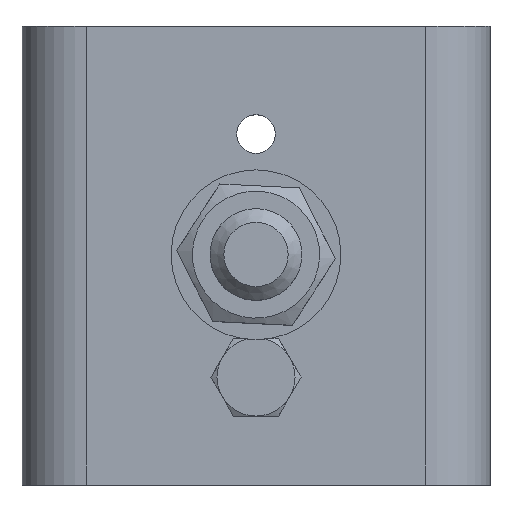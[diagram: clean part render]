
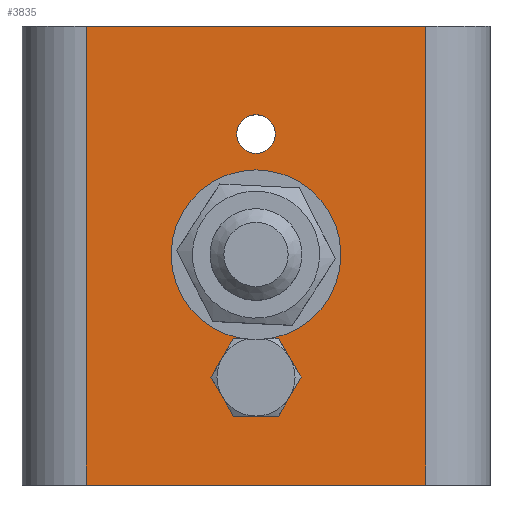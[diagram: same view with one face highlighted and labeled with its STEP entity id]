
A CAD part, top view. The second image highlights one B-rep face of the part: STEP entity #3835.
In plain terms, the highlighted planar face has unit normal (0, 0, 1).
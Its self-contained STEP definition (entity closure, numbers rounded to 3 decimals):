
#89=LINE('',#5876,#403);
#91=LINE('',#5880,#405);
#92=LINE('',#5882,#406);
#93=LINE('',#5883,#407);
#403=VECTOR('',#4606,100.);
#405=VECTOR('',#4610,74.);
#406=VECTOR('',#4611,100.);
#407=VECTOR('',#4612,74.);
#753=PLANE('',#4086);
#860=FACE_BOUND('',#1151,.T.);
#861=FACE_BOUND('',#1152,.T.);
#914=FACE_OUTER_BOUND('',#1150,.T.);
#1150=EDGE_LOOP('',(#2628,#2629,#2630,#2631));
#1151=EDGE_LOOP('',(#2632));
#1152=EDGE_LOOP('',(#2633));
#1422=CIRCLE('',#4087,4.188);
#1423=CIRCLE('',#4088,4.2);
#1658=VERTEX_POINT('',#5860);
#1661=VERTEX_POINT('',#5867);
#1663=VERTEX_POINT('',#5879);
#1664=VERTEX_POINT('',#5881);
#1665=VERTEX_POINT('',#5884);
#1666=VERTEX_POINT('',#5886);
#2042=EDGE_CURVE('',#1658,#1661,#89,.T.);
#2044=EDGE_CURVE('',#1661,#1663,#91,.T.);
#2045=EDGE_CURVE('',#1663,#1664,#92,.T.);
#2046=EDGE_CURVE('',#1664,#1658,#93,.T.);
#2047=EDGE_CURVE('',#1665,#1665,#1422,.T.);
#2048=EDGE_CURVE('',#1666,#1666,#1423,.T.);
#2628=ORIENTED_EDGE('',*,*,#2042,.T.);
#2629=ORIENTED_EDGE('',*,*,#2044,.T.);
#2630=ORIENTED_EDGE('',*,*,#2045,.T.);
#2631=ORIENTED_EDGE('',*,*,#2046,.T.);
#2632=ORIENTED_EDGE('',*,*,#2047,.T.);
#2633=ORIENTED_EDGE('',*,*,#2048,.T.);
#3835=ADVANCED_FACE('',(#914,#860,#861),#753,.T.);
#4086=AXIS2_PLACEMENT_3D('',#5878,#4608,#4609);
#4087=AXIS2_PLACEMENT_3D('',#5885,#4613,#4614);
#4088=AXIS2_PLACEMENT_3D('',#5887,#4615,#4616);
#4606=DIRECTION('',(0.,1.,0.));
#4608=DIRECTION('center_axis',(0.,0.,1.));
#4609=DIRECTION('ref_axis',(1.,0.,0.));
#4610=DIRECTION('',(-1.,0.,0.));
#4611=DIRECTION('',(0.,-1.,0.));
#4612=DIRECTION('',(1.,0.,0.));
#4613=DIRECTION('center_axis',(0.,0.,-1.));
#4614=DIRECTION('ref_axis',(1.,0.,0.));
#4615=DIRECTION('center_axis',(0.,0.,-1.));
#4616=DIRECTION('ref_axis',(-1.,0.,0.));
#5860=CARTESIAN_POINT('',(37.,-50.,0.));
#5867=CARTESIAN_POINT('',(37.,50.,0.));
#5876=CARTESIAN_POINT('',(37.,25.,0.));
#5878=CARTESIAN_POINT('Origin',(135.6,0.,0.));
#5879=CARTESIAN_POINT('',(-37.,50.,0.));
#5880=CARTESIAN_POINT('',(144.9,50.,0.));
#5881=CARTESIAN_POINT('',(-37.,-50.,0.));
#5882=CARTESIAN_POINT('',(-37.,-25.,0.));
#5883=CARTESIAN_POINT('',(-144.9,-50.,0.));
#5884=CARTESIAN_POINT('',(4.188,-26.5,0.));
#5885=CARTESIAN_POINT('Origin',(0.,-26.5,0.));
#5886=CARTESIAN_POINT('',(4.2,26.5,0.));
#5887=CARTESIAN_POINT('Origin',(0.,26.5,0.));
